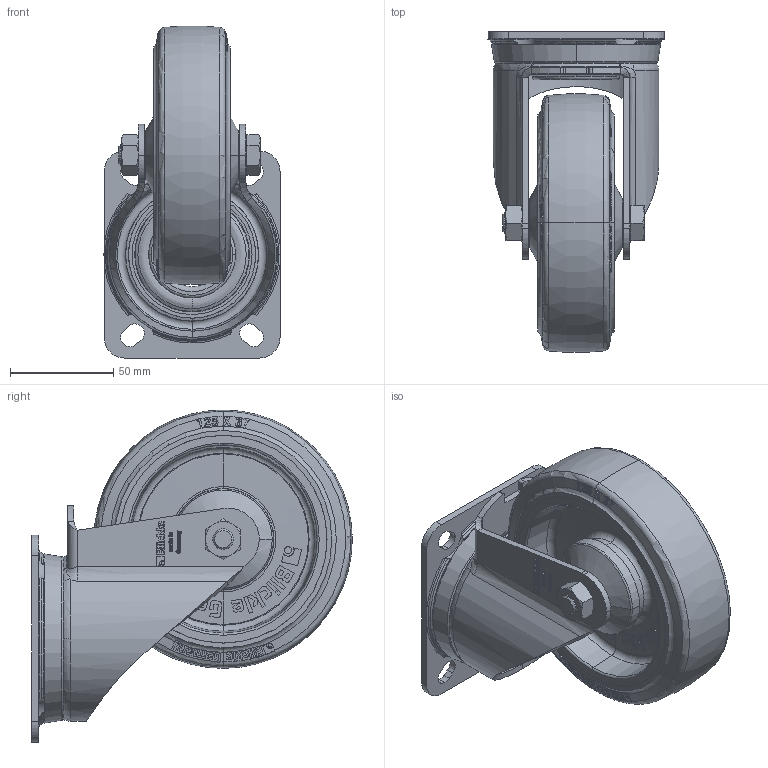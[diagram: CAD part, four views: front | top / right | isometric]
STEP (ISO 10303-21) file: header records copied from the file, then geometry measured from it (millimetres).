
FILE_DESCRIPTION (( 'STEP AP214' ), '1' );
FILE_NAME ('LK-POEV_125K-1-SB_606855-214.step', '2022-01-07T11:14:52', ( '' ), ( '' ), 'SwSTEP 2.0', 'SolidWorks 2018', '' );
FILE_SCHEMA (( 'AUTOMOTIVE_DESIGN' ));
Length unit declared in the file: millimetre
Products named in the file (5): LK-POEV_125K-1-SB_606855-214; GH-LK-125x45-01_10x46_G16_3D; POEV_125_3D_G16_POEV_125_10K-SB_591917; GH-LK_125_GH-LK-125x45-01_10x46; POEV_125_10K-SB_G16_3D
Assembly tree (4 placements, depth 3):
  LK-POEV_125K-1-SB_606855-214
    GH-LK_125_GH-LK-125x45-01_10x46
      GH-LK-125x45-01_10x46_G16_3D
    POEV_125_3D_G16_POEV_125_10K-SB_591917
      POEV_125_10K-SB_G16_3D
Bounding box: 85.06 x 154.92 x 160.42 mm (x, y, z)
Volume: 379400.3 mm3; surface area: 122566 mm2
Topology: 2 solids, 6 shells, 3484 faces, 9401 edges, 6146 vertices
Faces by surface type: bspline 1538, plane 1363, cone 275, torus 172, cylinder 136
Entity records: 140195 total; most frequent: CARTESIAN_POINT 56940, ORIENTED_EDGE 18806, DIRECTION 9609, EDGE_CURVE 9403, VERTEX_POINT 6148, B_SPLINE_CURVE_WITH_KNOTS 4263, LINE 3869, VECTOR 3869
